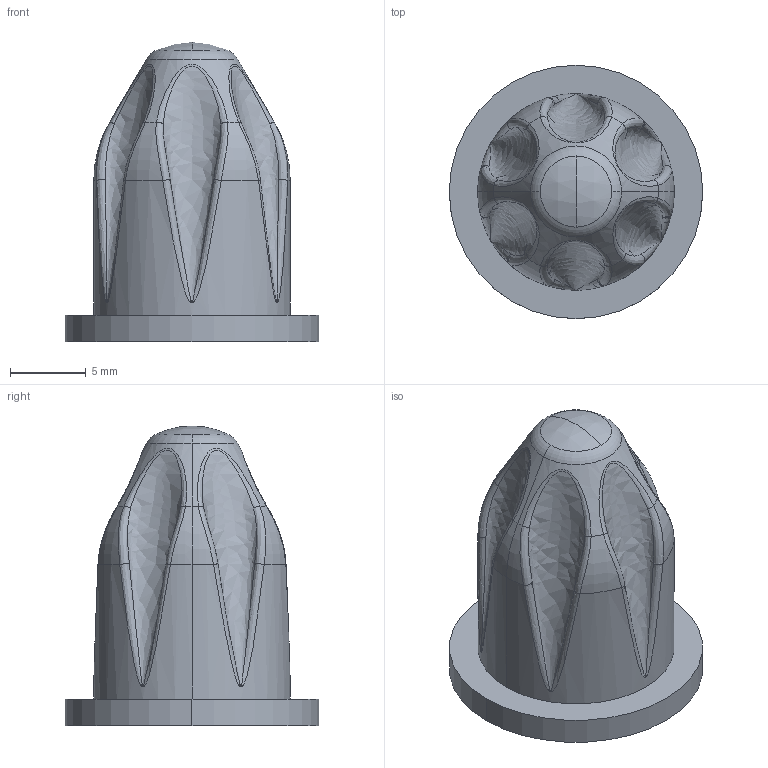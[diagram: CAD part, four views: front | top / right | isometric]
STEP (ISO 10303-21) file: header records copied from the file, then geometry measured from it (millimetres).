
FILE_DESCRIPTION (( 'STEP AP214' ), '1' );
FILE_NAME ('3DFSJA6560000A.STEP', '2021-03-31T18:38:39', ( '' ), ( '' ), 'SwSTEP 2.0', 'SolidWorks 2019', '' );
FILE_SCHEMA (( 'AUTOMOTIVE_DESIGN' ));
Length unit declared in the file: inch
Products named in the file (1): 3DFSJA6560000A
Bounding box: 16.74 x 16.74 x 19.81 mm (x, y, z)
Volume: 2054.8 mm3; surface area: 1131.7 mm2
Topology: 1 solids, 1 shells, 235 faces, 598 edges, 389 vertices
Faces by surface type: bspline 112, plane 105, torus 10, cylinder 4, cone 2, sphere 2
Entity records: 17171 total; most frequent: CARTESIAN_POINT 9723, ORIENTED_EDGE 1196, DIRECTION 692, EDGE_CURVE 598, VERTEX_POINT 389, LINE 328, VECTOR 328, EDGE_LOOP 259
